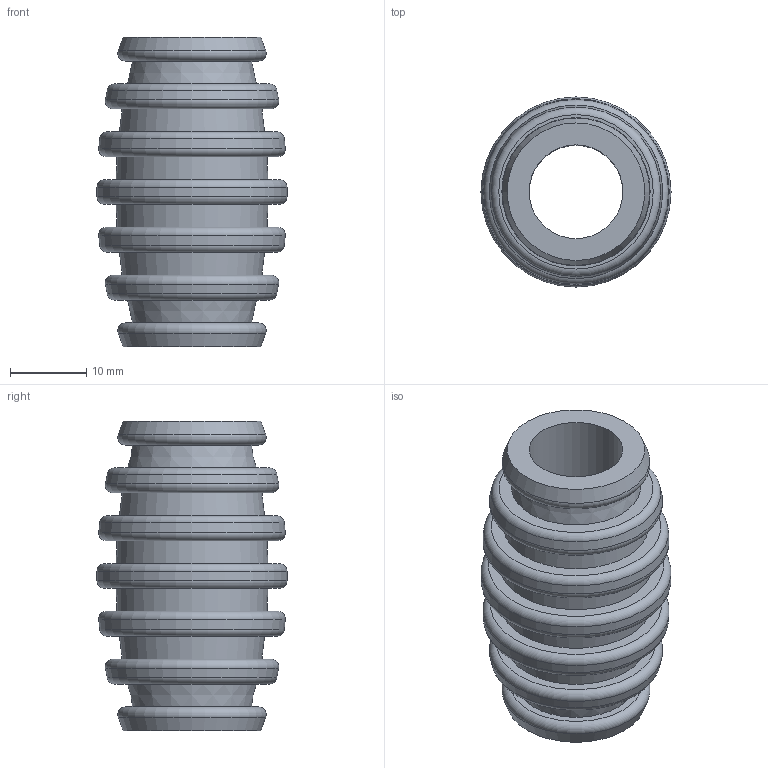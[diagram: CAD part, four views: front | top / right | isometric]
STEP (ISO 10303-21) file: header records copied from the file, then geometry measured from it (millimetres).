
FILE_DESCRIPTION(/* description */ (''),/* implementation_level */ '2;1');
FILE_NAME(/* name */ 'shift-peg-v2-fillet-1mm.step',/* time_stamp */ '2025-12-14T08:31:05+01:00',/* author */ (''),/* organization */ (''),/* preprocessor_version */ 'ST-DEVELOPER v20.1',/* originating_system */ 'Autodesk Translation Framework v14.21.0.0',/* authorisation */ '');
FILE_SCHEMA (('AUTOMOTIVE_DESIGN { 1 0 10303 214 3 1 1 }'));
Length unit declared in the file: millimetre
Products named in the file (2): 2025-12-01-16-11-51-508; 2025-12-01-18-04-36-472
Assembly tree (1 placements, depth 2):
  2025-12-01-16-11-51-508
    2025-12-01-18-04-36-472
Bounding box: 24.86 x 24.86 x 40.5 mm (x, y, z)
Volume: 8681 mm3; surface area: 5949.2 mm2
Topology: 1 solids, 1 shells, 40 faces, 72 edges, 46 vertices
Faces by surface type: plane 14, torus 12, cone 12, cylinder 2
Full cylindrical faces by diameter (mm): 12.25 x1, 24.86 x1
Entity records: 1070 total; most frequent: DIRECTION 216, CARTESIAN_POINT 161, ORIENTED_EDGE 144, AXIS2_PLACEMENT_3D 101, EDGE_CURVE 72, CIRCLE 58, EDGE_LOOP 54, VERTEX_POINT 46
